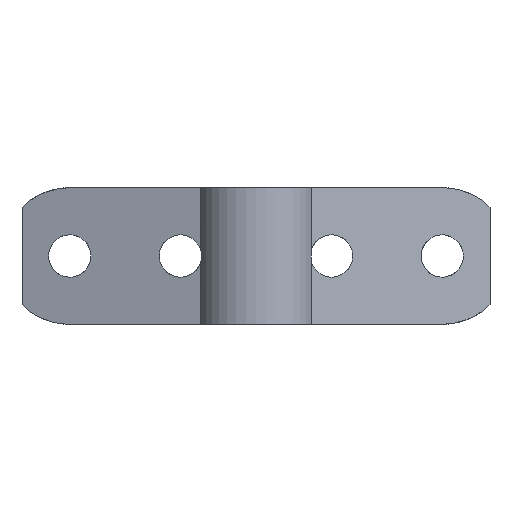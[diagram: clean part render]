
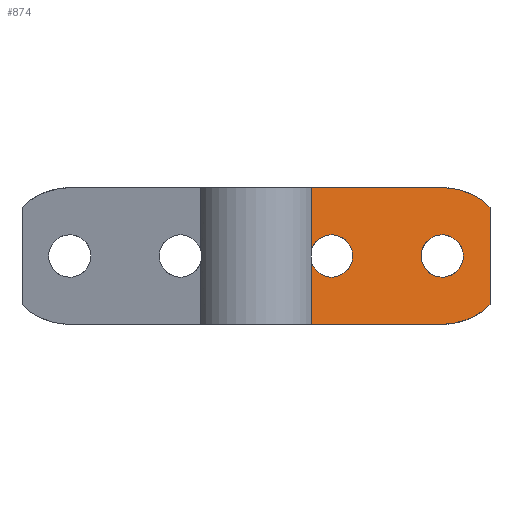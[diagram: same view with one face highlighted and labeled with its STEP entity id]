
A CAD part, left-side view. The second image highlights one B-rep face of the part: STEP entity #874.
In plain terms, the highlighted planar face has unit normal (-0.966, -0.259, 0).
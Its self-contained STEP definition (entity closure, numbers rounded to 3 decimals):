
#30=FACE_BOUND('',#142,.T.);
#49=PLANE('',#978);
#87=FACE_OUTER_BOUND('',#141,.T.);
#141=EDGE_LOOP('',(#697,#698,#699,#700,#701,#702,#703,#704));
#142=EDGE_LOOP('',(#705));
#206=LINE('',#1460,#273);
#217=LINE('',#1491,#284);
#220=LINE('',#1498,#287);
#221=LINE('',#1499,#288);
#222=LINE('',#1500,#289);
#273=VECTOR('',#1149,10.);
#284=VECTOR('',#1184,10.);
#287=VECTOR('',#1193,10.);
#288=VECTOR('',#1194,10.);
#289=VECTOR('',#1195,10.);
#313=ELLIPSE('',#918,10.353,10.);
#327=ELLIPSE('',#944,10.353,10.);
#328=ELLIPSE('',#946,3.209,3.1);
#335=ELLIPSE('',#958,3.209,3.1);
#371=VERTEX_POINT('',#1306);
#372=VERTEX_POINT('',#1308);
#404=VERTEX_POINT('',#1401);
#405=VERTEX_POINT('',#1403);
#406=VERTEX_POINT('',#1407);
#420=VERTEX_POINT('',#1438);
#421=VERTEX_POINT('',#1440);
#426=VERTEX_POINT('',#1459);
#434=VERTEX_POINT('',#1489);
#453=EDGE_CURVE('',#372,#371,#313,.T.);
#488=EDGE_CURVE('',#405,#404,#327,.T.);
#490=EDGE_CURVE('',#406,#406,#328,.T.);
#505=EDGE_CURVE('',#421,#420,#335,.T.);
#516=EDGE_CURVE('',#426,#405,#206,.T.);
#534=EDGE_CURVE('',#434,#371,#217,.T.);
#538=EDGE_CURVE('',#421,#434,#220,.T.);
#539=EDGE_CURVE('',#426,#420,#221,.T.);
#540=EDGE_CURVE('',#404,#372,#222,.T.);
#697=ORIENTED_EDGE('',*,*,#453,.T.);
#698=ORIENTED_EDGE('',*,*,#534,.F.);
#699=ORIENTED_EDGE('',*,*,#538,.F.);
#700=ORIENTED_EDGE('',*,*,#505,.T.);
#701=ORIENTED_EDGE('',*,*,#539,.F.);
#702=ORIENTED_EDGE('',*,*,#516,.T.);
#703=ORIENTED_EDGE('',*,*,#488,.T.);
#704=ORIENTED_EDGE('',*,*,#540,.T.);
#705=ORIENTED_EDGE('',*,*,#490,.T.);
#874=ADVANCED_FACE('',(#87,#30),#49,.T.);
#918=AXIS2_PLACEMENT_3D('',#1309,#1030,#1031);
#944=AXIS2_PLACEMENT_3D('',#1404,#1094,#1095);
#946=AXIS2_PLACEMENT_3D('',#1408,#1099,#1100);
#958=AXIS2_PLACEMENT_3D('',#1441,#1129,#1130);
#978=AXIS2_PLACEMENT_3D('',#1497,#1191,#1192);
#1030=DIRECTION('center_axis',(-0.966,-0.259,0.));
#1031=DIRECTION('ref_axis',(-0.259,0.966,0.));
#1094=DIRECTION('center_axis',(-0.966,-0.259,0.));
#1095=DIRECTION('ref_axis',(-0.259,0.966,0.));
#1099=DIRECTION('center_axis',(0.966,0.259,0.));
#1100=DIRECTION('ref_axis',(-0.259,0.966,0.));
#1129=DIRECTION('center_axis',(0.966,0.259,0.));
#1130=DIRECTION('ref_axis',(-0.259,0.966,0.));
#1149=DIRECTION('',(0.259,-0.966,0.));
#1184=DIRECTION('',(0.259,-0.966,0.));
#1191=DIRECTION('center_axis',(-0.966,-0.259,0.));
#1192=DIRECTION('ref_axis',(0.259,-0.966,0.));
#1193=DIRECTION('',(0.,0.,1.));
#1194=DIRECTION('',(0.,0.,1.));
#1195=DIRECTION('',(0.,0.,1.));
#1306=CARTESIAN_POINT('',(-12.188,-27.265,20.));
#1308=CARTESIAN_POINT('',(-10.313,-34.265,17.141));
#1309=CARTESIAN_POINT('Origin',(-12.188,-27.265,10.));
#1401=CARTESIAN_POINT('',(-10.313,-34.265,2.859));
#1403=CARTESIAN_POINT('',(-12.188,-27.265,0.));
#1404=CARTESIAN_POINT('Origin',(-12.188,-27.265,10.));
#1407=CARTESIAN_POINT('',(-11.358,-30.365,10.));
#1408=CARTESIAN_POINT('Origin',(-12.188,-27.265,10.));
#1438=CARTESIAN_POINT('',(-17.335,-8.059,9.242));
#1440=CARTESIAN_POINT('',(-17.335,-8.059,10.758));
#1441=CARTESIAN_POINT('Origin',(-16.529,-11.065,10.));
#1459=CARTESIAN_POINT('',(-17.335,-8.059,0.));
#1460=CARTESIAN_POINT('',(-17.335,-8.059,0.));
#1489=CARTESIAN_POINT('',(-17.335,-8.059,20.));
#1491=CARTESIAN_POINT('',(-17.335,-8.059,20.));
#1497=CARTESIAN_POINT('Origin',(-17.335,-8.059,0.));
#1498=CARTESIAN_POINT('',(-17.335,-8.059,0.));
#1499=CARTESIAN_POINT('',(-17.335,-8.059,0.));
#1500=CARTESIAN_POINT('',(-10.313,-34.265,0.));
